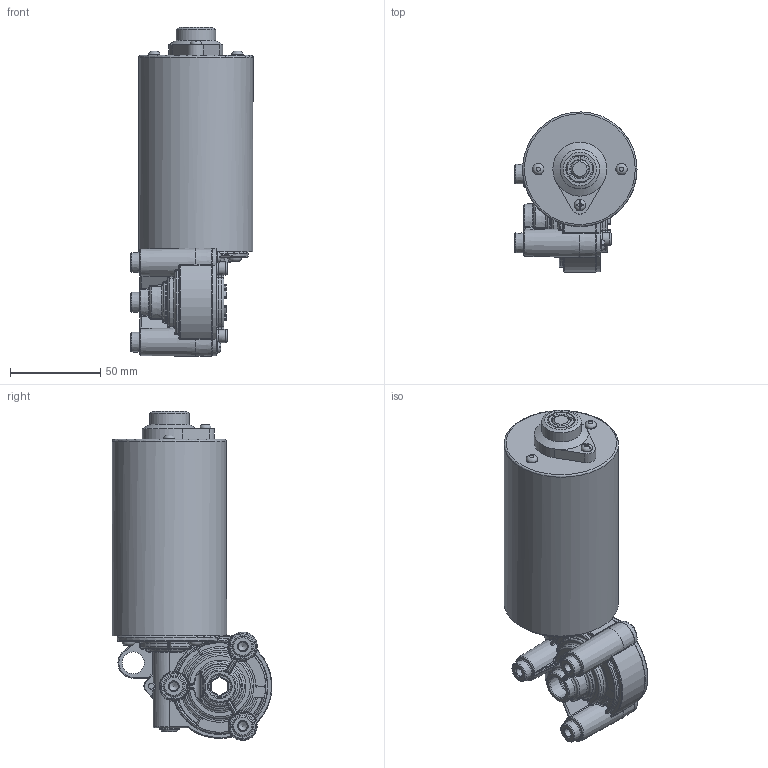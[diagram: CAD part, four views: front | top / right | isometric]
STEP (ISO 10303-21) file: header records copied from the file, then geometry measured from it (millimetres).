
FILE_DESCRIPTION (( 'STEP AP203' ), '1' );
FILE_NAME ('3D_TGM2.STEP', '2020-03-10T06:42:49', ( '' ), ( '' ), 'SwSTEP 2.0', 'SolidWorks 2015', '' );
FILE_SCHEMA (( 'CONFIG_CONTROL_DESIGN' ));
Length unit declared in the file: millimetre
Products named in the file (1): 3D_TGM2
Bounding box: 67.75 x 88.63 x 182.6 mm (x, y, z)
Volume: 442328.5 mm3; surface area: 61804.1 mm2
Topology: 1 solids, 6 shells, 1147 faces, 2789 edges, 1644 vertices
Faces by surface type: plane 338, bspline 260, cylinder 250, torus 175, cone 91, sphere 33
Full cylindrical faces by diameter (mm): 2.17 x1, 2.4 x1, 3.2 x3, 3.3 x3, 4 x4, 5 x3, 5.2 x3, 6.3 x5, 6.5 x1, 7.3 x3, 7.333 x1, 7.5 x3, 7.7 x1, 12 x1, 12.2 x1, 13.749 x1, 14.5 x1, 15 x1, 15.5 x1, 17 x1, 18 x1, 20 x1, 21 x1, 22 x2, 23.05 x1, 26 x1, 26.5 x1, 32 x1, 37.02 x1, 63.5 x1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
Entity records: 39547 total; most frequent: CARTESIAN_POINT 15479, ORIENTED_EDGE 5192, DIRECTION 4698, EDGE_CURVE 2596, AXIS2_PLACEMENT_3D 1960, VERTEX_POINT 1595, EDGE_LOOP 1293, FACE_OUTER_BOUND 1219
